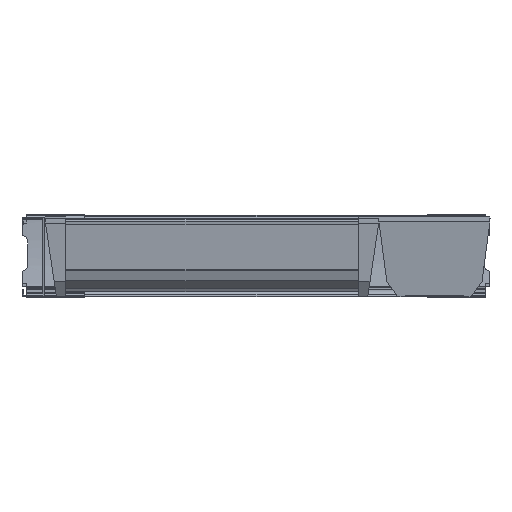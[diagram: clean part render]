
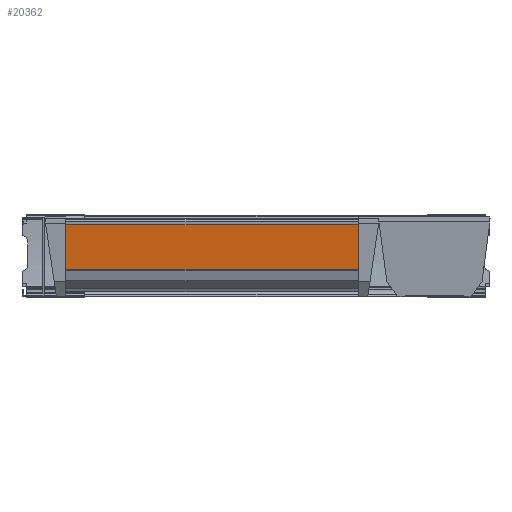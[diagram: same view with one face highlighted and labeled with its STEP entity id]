
A CAD part, left-side view. The second image highlights one B-rep face of the part: STEP entity #20362.
In plain terms, the highlighted planar face has unit normal (-0.991, 0, -0.131).
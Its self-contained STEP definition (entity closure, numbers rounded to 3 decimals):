
#175 = CARTESIAN_POINT ( 'NONE',  ( 2.926, 345.5, 61.998 ) ) ;
#199 = CARTESIAN_POINT ( 'NONE',  ( 2.926, 107., 61.998 ) ) ;
#1024 = CARTESIAN_POINT ( 'NONE',  ( 8.199, 107., 21.942 ) ) ;
#1049 = CARTESIAN_POINT ( 'NONE',  ( 8.199, 345.5, 21.942 ) ) ;
#5348 = EDGE_CURVE ( 'NONE', #25553, #26169, #32474, .T. ) ;
#5351 = EDGE_CURVE ( 'NONE', #25553, #25578, #32480, .T. ) ;
#5352 = EDGE_CURVE ( 'NONE', #26169, #26160, #32479, .T. ) ;
#5354 = EDGE_CURVE ( 'NONE', #26160, #25578, #32485, .T. ) ;
#7611 = EDGE_LOOP ( 'NONE', ( #33810, #33809, #33808, #33807 ) ) ;
#16817 = DIRECTION ( 'NONE',  ( 0.131, 0., -0.991 ) ) ;
#16858 = DIRECTION ( 'NONE',  ( 0.991, 0., 0.131 ) ) ;
#17012 = PLANE ( 'NONE',  #31832 ) ;
#17016 = CARTESIAN_POINT ( 'NONE',  ( 8.199, 351., 21.942 ) ) ;
#20362 = ADVANCED_FACE ( 'NONE', ( #32968 ), #17012, .F. ) ;
#25553 = VERTEX_POINT ( 'NONE', #1049 ) ;
#25578 = VERTEX_POINT ( 'NONE', #1024 ) ;
#26160 = VERTEX_POINT ( 'NONE', #199 ) ;
#26169 = VERTEX_POINT ( 'NONE', #175 ) ;
#30833 = DIRECTION ( 'NONE',  ( 0.131, 0., -0.991 ) ) ;
#30834 = CARTESIAN_POINT ( 'NONE',  ( 8.199, 107., 21.942 ) ) ;
#30849 = DIRECTION ( 'NONE',  ( 0., -1., 0. ) ) ;
#30855 = DIRECTION ( 'NONE',  ( 0., -1., 0. ) ) ;
#30857 = CARTESIAN_POINT ( 'NONE',  ( 2.926, 351., 61.998 ) ) ;
#30871 = DIRECTION ( 'NONE',  ( -0.131, 0., 0.991 ) ) ;
#30884 = CARTESIAN_POINT ( 'NONE',  ( 8.199, 351., 21.942 ) ) ;
#30910 = CARTESIAN_POINT ( 'NONE',  ( 8.199, 345.5, 21.942 ) ) ;
#31832 = AXIS2_PLACEMENT_3D ( 'NONE', #17016, #16858, #16817 ) ;
#32474 = LINE ( 'NONE', #30910, #32478 ) ;
#32478 = VECTOR ( 'NONE', #30871, 1000. ) ;
#32479 = LINE ( 'NONE', #30857, #32484 ) ;
#32480 = LINE ( 'NONE', #30884, #32482 ) ;
#32482 = VECTOR ( 'NONE', #30855, 1000. ) ;
#32483 = VECTOR ( 'NONE', #30833, 1000. ) ;
#32484 = VECTOR ( 'NONE', #30849, 1000. ) ;
#32485 = LINE ( 'NONE', #30834, #32483 ) ;
#32968 = FACE_OUTER_BOUND ( 'NONE', #7611, .T. ) ;
#33807 = ORIENTED_EDGE ( 'NONE', *, *, #5352, .F. ) ;
#33808 = ORIENTED_EDGE ( 'NONE', *, *, #5354, .F. ) ;
#33809 = ORIENTED_EDGE ( 'NONE', *, *, #5351, .T. ) ;
#33810 = ORIENTED_EDGE ( 'NONE', *, *, #5348, .F. ) ;
